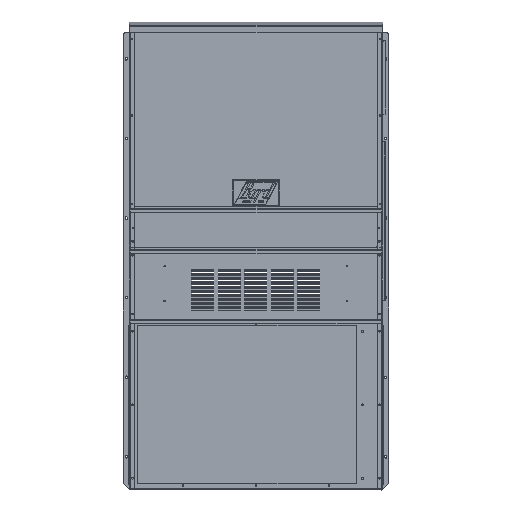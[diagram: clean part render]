
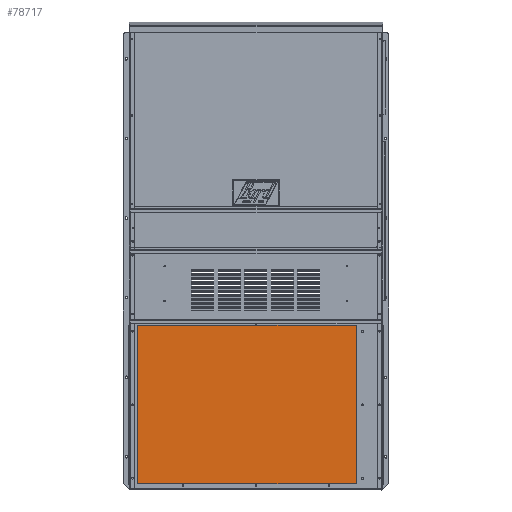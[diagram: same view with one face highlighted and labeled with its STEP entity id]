
A CAD part, top view. The second image highlights one B-rep face of the part: STEP entity #78717.
In plain terms, the highlighted planar face has unit normal (0, 0, 1).
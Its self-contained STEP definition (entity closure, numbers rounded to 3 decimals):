
#1327 = CARTESIAN_POINT ( 'NONE',  ( -36.784, 24.047, 0.149 ) ) ;
#1400 = VERTEX_POINT ( 'NONE', #67945 ) ;
#5343 = CARTESIAN_POINT ( 'NONE',  ( -36.784, 0.149, 0.149 ) ) ;
#8478 = VERTEX_POINT ( 'NONE', #1327 ) ;
#13030 = VERTEX_POINT ( 'NONE', #41062 ) ;
#14390 = VECTOR ( 'NONE', #71926, 39.37 ) ;
#31584 = EDGE_LOOP ( 'NONE', ( #94208, #67759, #78660, #35716 ) ) ;
#33536 = VECTOR ( 'NONE', #83237, 39.37 ) ;
#35716 = ORIENTED_EDGE ( 'NONE', *, *, #78711, .F. ) ;
#36298 = CARTESIAN_POINT ( 'NONE',  ( -36.784, 0.149, 0.149 ) ) ;
#39484 = DIRECTION ( 'NONE',  ( 0., 1., 0. ) ) ;
#41062 = CARTESIAN_POINT ( 'NONE',  ( -3.858, 24.047, 0.149 ) ) ;
#49623 = CARTESIAN_POINT ( 'NONE',  ( -3.858, 24.047, 0.149 ) ) ;
#56492 = CARTESIAN_POINT ( 'NONE',  ( -36.784, 24.047, 0.149 ) ) ;
#61122 = CARTESIAN_POINT ( 'NONE',  ( -36.784, 24.047, 0.149 ) ) ;
#64156 = LINE ( 'NONE', #36298, #14390 ) ;
#67573 = EDGE_CURVE ( 'NONE', #1400, #79868, #64156, .T. ) ;
#67759 = ORIENTED_EDGE ( 'NONE', *, *, #67573, .F. ) ;
#67945 = CARTESIAN_POINT ( 'NONE',  ( -3.858, 0.149, 0.149 ) ) ;
#70044 = DIRECTION ( 'NONE',  ( 0., 1., 0. ) ) ;
#71926 = DIRECTION ( 'NONE',  ( -1., 0., 0. ) ) ;
#74740 = CARTESIAN_POINT ( 'NONE',  ( -3.858, 24.047, 0.149 ) ) ;
#77494 = AXIS2_PLACEMENT_3D ( 'NONE', #74740, #92544, #39484 ) ;
#78660 = ORIENTED_EDGE ( 'NONE', *, *, #84840, .F. ) ;
#78711 = EDGE_CURVE ( 'NONE', #8478, #13030, #80652, .T. ) ;
#78717 = ADVANCED_FACE ( 'NONE', ( #101488 ), #110052, .F. ) ;
#79868 = VERTEX_POINT ( 'NONE', #5343 ) ;
#79979 = VECTOR ( 'NONE', #70044, 39.37 ) ;
#80652 = LINE ( 'NONE', #56492, #33536 ) ;
#82030 = EDGE_CURVE ( 'NONE', #79868, #8478, #82788, .T. ) ;
#82788 = LINE ( 'NONE', #61122, #79979 ) ;
#83237 = DIRECTION ( 'NONE',  ( 1., 0., 0. ) ) ;
#83859 = VECTOR ( 'NONE', #94213, 39.37 ) ;
#84840 = EDGE_CURVE ( 'NONE', #13030, #1400, #110269, .T. ) ;
#92544 = DIRECTION ( 'NONE',  ( 0., 0., -1. ) ) ;
#94208 = ORIENTED_EDGE ( 'NONE', *, *, #82030, .F. ) ;
#94213 = DIRECTION ( 'NONE',  ( 0., -1., 0. ) ) ;
#101488 = FACE_OUTER_BOUND ( 'NONE', #31584, .T. ) ;
#110052 = PLANE ( 'NONE',  #77494 ) ;
#110269 = LINE ( 'NONE', #49623, #83859 ) ;
